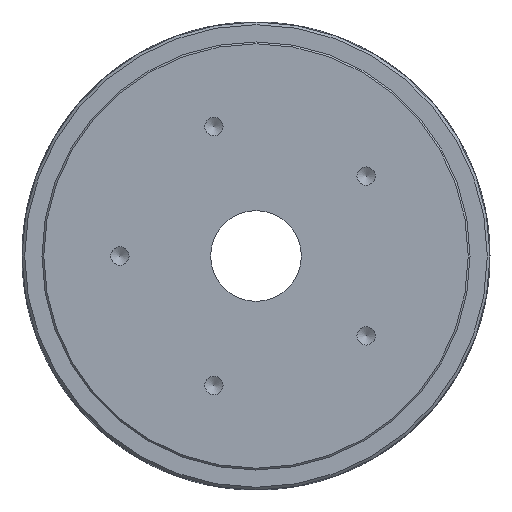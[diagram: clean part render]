
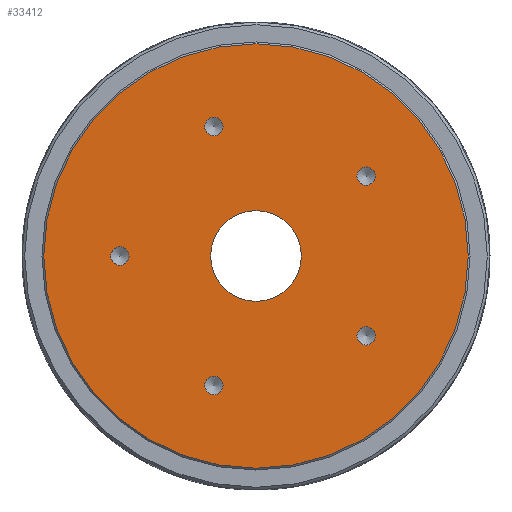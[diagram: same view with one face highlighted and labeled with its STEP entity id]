
A CAD part, left-side view. The second image highlights one B-rep face of the part: STEP entity #33412.
In plain terms, the highlighted planar face has unit normal (-1, 0, 0).
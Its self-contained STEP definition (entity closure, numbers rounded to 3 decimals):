
#2528=FACE_BOUND('',#9446,.T.);
#2529=FACE_BOUND('',#9447,.T.);
#2530=FACE_BOUND('',#9448,.T.);
#2531=FACE_BOUND('',#9449,.T.);
#2532=FACE_BOUND('',#9450,.T.);
#2533=FACE_BOUND('',#9451,.T.);
#7505=FACE_OUTER_BOUND('',#9445,.T.);
#9445=EDGE_LOOP('',(#25725));
#9446=EDGE_LOOP('',(#25726));
#9447=EDGE_LOOP('',(#25727));
#9448=EDGE_LOOP('',(#25728));
#9449=EDGE_LOOP('',(#25729));
#9450=EDGE_LOOP('',(#25730));
#9451=EDGE_LOOP('',(#25731));
#10858=CIRCLE('',#36959,25.);
#10859=CIRCLE('',#36962,5.053);
#10861=CIRCLE('',#36966,5.053);
#10863=CIRCLE('',#36970,5.053);
#10865=CIRCLE('',#36974,5.053);
#10867=CIRCLE('',#36978,5.053);
#10869=CIRCLE('',#36982,117.);
#13179=VERTEX_POINT('',#57490);
#13180=VERTEX_POINT('',#57494);
#13182=VERTEX_POINT('',#57500);
#13184=VERTEX_POINT('',#57506);
#13186=VERTEX_POINT('',#57512);
#13188=VERTEX_POINT('',#57518);
#13190=VERTEX_POINT('',#57524);
#17636=EDGE_CURVE('',#13179,#13179,#10858,.T.);
#17637=EDGE_CURVE('',#13180,#13180,#10859,.T.);
#17639=EDGE_CURVE('',#13182,#13182,#10861,.T.);
#17641=EDGE_CURVE('',#13184,#13184,#10863,.T.);
#17643=EDGE_CURVE('',#13186,#13186,#10865,.T.);
#17645=EDGE_CURVE('',#13188,#13188,#10867,.T.);
#17647=EDGE_CURVE('',#13190,#13190,#10869,.T.);
#25725=ORIENTED_EDGE('',*,*,#17647,.F.);
#25726=ORIENTED_EDGE('',*,*,#17636,.T.);
#25727=ORIENTED_EDGE('',*,*,#17637,.T.);
#25728=ORIENTED_EDGE('',*,*,#17639,.T.);
#25729=ORIENTED_EDGE('',*,*,#17641,.T.);
#25730=ORIENTED_EDGE('',*,*,#17643,.T.);
#25731=ORIENTED_EDGE('',*,*,#17645,.T.);
#31588=PLANE('',#36981);
#33412=ADVANCED_FACE('',(#7505,#2528,#2529,#2530,#2531,#2532,#2533),#31588,
 .T.);
#36959=AXIS2_PLACEMENT_3D('',#57491,#45862,#45863);
#36962=AXIS2_PLACEMENT_3D('',#57495,#45868,#45869);
#36966=AXIS2_PLACEMENT_3D('',#57501,#45876,#45877);
#36970=AXIS2_PLACEMENT_3D('',#57507,#45884,#45885);
#36974=AXIS2_PLACEMENT_3D('',#57513,#45892,#45893);
#36978=AXIS2_PLACEMENT_3D('',#57519,#45900,#45901);
#36981=AXIS2_PLACEMENT_3D('',#57523,#45906,#45907);
#36982=AXIS2_PLACEMENT_3D('',#57525,#45908,#45909);
#45862=DIRECTION('center_axis',(1.,0.,0.));
#45863=DIRECTION('ref_axis',(0.,0.,-1.));
#45868=DIRECTION('center_axis',(1.,0.,0.));
#45869=DIRECTION('ref_axis',(0.,0.,1.));
#45876=DIRECTION('center_axis',(1.,0.,0.));
#45877=DIRECTION('ref_axis',(0.,0.,1.));
#45884=DIRECTION('center_axis',(1.,0.,0.));
#45885=DIRECTION('ref_axis',(0.,0.,1.));
#45892=DIRECTION('center_axis',(1.,0.,0.));
#45893=DIRECTION('ref_axis',(0.,0.,1.));
#45900=DIRECTION('center_axis',(1.,0.,0.));
#45901=DIRECTION('ref_axis',(0.,0.,1.));
#45906=DIRECTION('center_axis',(-1.,0.,0.));
#45907=DIRECTION('ref_axis',(0.,0.,1.));
#45908=DIRECTION('center_axis',(1.,0.,0.));
#45909=DIRECTION('ref_axis',(0.,-1.,0.));
#57490=CARTESIAN_POINT('',(9.429,24.307,0.));
#57491=CARTESIAN_POINT('Origin',(9.429,-0.693,0.));
#57494=CARTESIAN_POINT('',(9.429,22.484,76.382));
#57495=CARTESIAN_POINT('Origin',(9.429,22.484,71.329));
#57500=CARTESIAN_POINT('',(9.429,-61.369,-39.031));
#57501=CARTESIAN_POINT('Origin',(9.429,-61.369,-44.084));
#57506=CARTESIAN_POINT('',(9.429,74.307,5.053));
#57507=CARTESIAN_POINT('Origin',(9.429,74.307,0.));
#57512=CARTESIAN_POINT('',(9.429,22.484,-66.276));
#57513=CARTESIAN_POINT('Origin',(9.429,22.484,-71.329));
#57518=CARTESIAN_POINT('',(9.429,-61.369,49.137));
#57519=CARTESIAN_POINT('Origin',(9.429,-61.369,44.084));
#57523=CARTESIAN_POINT('Origin',(9.429,117.307,0.));
#57524=CARTESIAN_POINT('',(9.429,116.307,0.));
#57525=CARTESIAN_POINT('Origin',(9.429,-0.693,0.));
